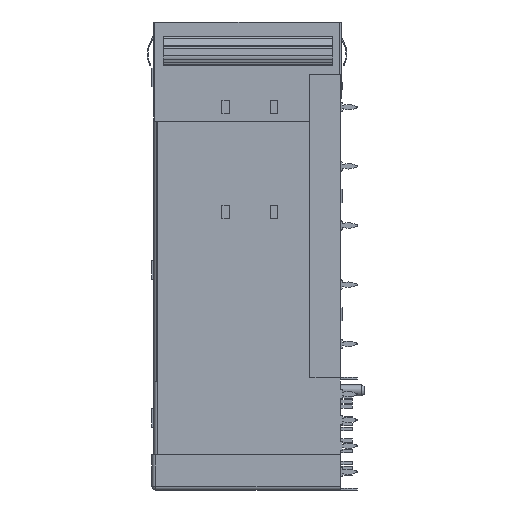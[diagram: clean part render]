
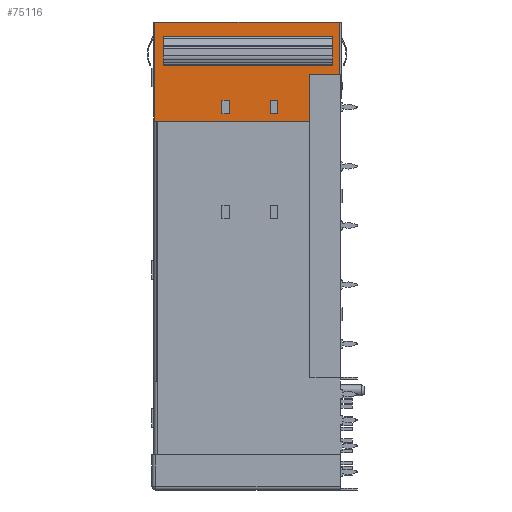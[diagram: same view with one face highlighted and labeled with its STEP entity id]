
A CAD part, left-side view. The second image highlights one B-rep face of the part: STEP entity #75116.
In plain terms, the highlighted planar face has unit normal (-1, 0, 0).
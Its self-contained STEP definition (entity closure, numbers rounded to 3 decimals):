
#1357 = VERTEX_POINT ( 'NONE', #70732 ) ;
#1971 = LINE ( 'NONE', #18788, #60208 ) ;
#2051 = DIRECTION ( 'NONE',  ( 0., 1., 0. ) ) ;
#3683 = FACE_BOUND ( 'NONE', #82720, .T. ) ;
#5963 = FACE_BOUND ( 'NONE', #32019, .T. ) ;
#6067 = LINE ( 'NONE', #29738, #23154 ) ;
#6200 = ORIENTED_EDGE ( 'NONE', *, *, #12895, .T. ) ;
#6686 = CARTESIAN_POINT ( 'NONE',  ( -28.75, 1.05, -1.9 ) ) ;
#7279 = CARTESIAN_POINT ( 'NONE',  ( -28.75, 4.1, -13.4 ) ) ;
#7719 = VECTOR ( 'NONE', #63972, 1000. ) ;
#7734 = ORIENTED_EDGE ( 'NONE', *, *, #25477, .T. ) ;
#8359 = ORIENTED_EDGE ( 'NONE', *, *, #84101, .T. ) ;
#9112 = CARTESIAN_POINT ( 'NONE',  ( -28.75, 0., -10.6 ) ) ;
#9141 = ORIENTED_EDGE ( 'NONE', *, *, #33282, .T. ) ;
#10245 = ORIENTED_EDGE ( 'NONE', *, *, #68516, .F. ) ;
#10424 = ORIENTED_EDGE ( 'NONE', *, *, #18353, .T. ) ;
#11529 = LINE ( 'NONE', #9112, #50312 ) ;
#11690 = ORIENTED_EDGE ( 'NONE', *, *, #83032, .T. ) ;
#12219 = DIRECTION ( 'NONE',  ( 0., -1., 0. ) ) ;
#12895 = EDGE_CURVE ( 'NONE', #67829, #16960, #15973, .T. ) ;
#13012 = ORIENTED_EDGE ( 'NONE', *, *, #55005, .T. ) ;
#13042 = VERTEX_POINT ( 'NONE', #86717 ) ;
#13133 = VECTOR ( 'NONE', #39602, 1000. ) ;
#14053 = ORIENTED_EDGE ( 'NONE', *, *, #28957, .T. ) ;
#15075 = ORIENTED_EDGE ( 'NONE', *, *, #28537, .T. ) ;
#15973 = LINE ( 'NONE', #33768, #35355 ) ;
#16363 = CARTESIAN_POINT ( 'NONE',  ( -28.75, 0.1, -7.1 ) ) ;
#16603 = VERTEX_POINT ( 'NONE', #45126 ) ;
#16960 = VERTEX_POINT ( 'NONE', #94165 ) ;
#18353 = EDGE_CURVE ( 'NONE', #40175, #64159, #11529, .T. ) ;
#18740 = ORIENTED_EDGE ( 'NONE', *, *, #69901, .T. ) ;
#18788 = CARTESIAN_POINT ( 'NONE',  ( -28.75, 25.3, 0. ) ) ;
#21657 = DIRECTION ( 'NONE',  ( 0., 1., 0. ) ) ;
#22184 = VECTOR ( 'NONE', #2051, 1000. ) ;
#22615 = CARTESIAN_POINT ( 'NONE',  ( -28.75, 4.1, 0. ) ) ;
#22871 = EDGE_LOOP ( 'NONE', ( #90883, #15075, #9141, #7734, #6200, #13012 ) ) ;
#22945 = DIRECTION ( 'NONE',  ( 1., 0., 0. ) ) ;
#23056 = FACE_OUTER_BOUND ( 'NONE', #22871, .T. ) ;
#23154 = VECTOR ( 'NONE', #51774, 1000. ) ;
#24330 = DIRECTION ( 'NONE',  ( 0., 0., 1. ) ) ;
#25097 = VERTEX_POINT ( 'NONE', #58107 ) ;
#25477 = EDGE_CURVE ( 'NONE', #16603, #67829, #1971, .T. ) ;
#28537 = EDGE_CURVE ( 'NONE', #13042, #87805, #32282, .T. ) ;
#28957 = EDGE_CURVE ( 'NONE', #72993, #40175, #50408, .T. ) ;
#29738 = CARTESIAN_POINT ( 'NONE',  ( -28.75, 0., -12.4 ) ) ;
#29953 = CARTESIAN_POINT ( 'NONE',  ( -28.75, 0., 0. ) ) ;
#30991 = VECTOR ( 'NONE', #70850, 1000. ) ;
#31025 = AXIS2_PLACEMENT_3D ( 'NONE', #29953, #22945, #52301 ) ;
#31045 = CARTESIAN_POINT ( 'NONE',  ( -28.75, 0., -12.4 ) ) ;
#31317 = CARTESIAN_POINT ( 'NONE',  ( -28.75, 16., 0. ) ) ;
#31397 = LINE ( 'NONE', #46782, #87376 ) ;
#31731 = VECTOR ( 'NONE', #24330, 1000. ) ;
#32019 = EDGE_LOOP ( 'NONE', ( #14053, #10424, #84368, #80553 ) ) ;
#32243 = CARTESIAN_POINT ( 'NONE',  ( -28.75, 15., 0. ) ) ;
#32282 = LINE ( 'NONE', #50441, #88248 ) ;
#32795 = CARTESIAN_POINT ( 'NONE',  ( -28.75, 23.95, -2.181 ) ) ;
#33282 = EDGE_CURVE ( 'NONE', #87805, #16603, #85845, .T. ) ;
#33671 = LINE ( 'NONE', #36644, #70272 ) ;
#33768 = CARTESIAN_POINT ( 'NONE',  ( -28.75, 25.1, 0. ) ) ;
#35084 = VERTEX_POINT ( 'NONE', #93903 ) ;
#35355 = VECTOR ( 'NONE', #41151, 1000. ) ;
#35682 = EDGE_LOOP ( 'NONE', ( #10245, #11690, #83312, #55146 ) ) ;
#36353 = VERTEX_POINT ( 'NONE', #7279 ) ;
#36549 = VECTOR ( 'NONE', #12219, 1000. ) ;
#36644 = CARTESIAN_POINT ( 'NONE',  ( -28.75, 25.2, -13.4 ) ) ;
#37632 = PLANE ( 'NONE',  #31025 ) ;
#38562 = DIRECTION ( 'NONE',  ( 0., 0., -1. ) ) ;
#39602 = DIRECTION ( 'NONE',  ( 0., 0., -1. ) ) ;
#40175 = VERTEX_POINT ( 'NONE', #55228 ) ;
#41151 = DIRECTION ( 'NONE',  ( 0., 0., -1. ) ) ;
#41926 = VERTEX_POINT ( 'NONE', #32795 ) ;
#42486 = FACE_BOUND ( 'NONE', #35682, .T. ) ;
#43992 = CARTESIAN_POINT ( 'NONE',  ( -28.75, 16., -10.6 ) ) ;
#45126 = CARTESIAN_POINT ( 'NONE',  ( -28.75, 0.1, 0. ) ) ;
#46030 = CARTESIAN_POINT ( 'NONE',  ( -28.75, 15., -10.6 ) ) ;
#46782 = CARTESIAN_POINT ( 'NONE',  ( -28.75, 1.05, -2.181 ) ) ;
#47554 = CARTESIAN_POINT ( 'NONE',  ( -28.75, 9.45, -12.4 ) ) ;
#48469 = VERTEX_POINT ( 'NONE', #68681 ) ;
#48744 = LINE ( 'NONE', #22615, #85299 ) ;
#48906 = CARTESIAN_POINT ( 'NONE',  ( -28.75, 1.05, -1.9 ) ) ;
#49729 = VERTEX_POINT ( 'NONE', #48906 ) ;
#50312 = VECTOR ( 'NONE', #60154, 1000. ) ;
#50408 = LINE ( 'NONE', #56150, #30991 ) ;
#50441 = CARTESIAN_POINT ( 'NONE',  ( -28.75, 0., -7.1 ) ) ;
#51774 = DIRECTION ( 'NONE',  ( 0., 1., 0. ) ) ;
#52074 = EDGE_CURVE ( 'NONE', #64159, #1357, #85348, .T. ) ;
#52301 = DIRECTION ( 'NONE',  ( 0., 0., -1. ) ) ;
#52829 = VERTEX_POINT ( 'NONE', #43992 ) ;
#52957 = VECTOR ( 'NONE', #93172, 1000. ) ;
#54178 = DIRECTION ( 'NONE',  ( 0., 1., 0. ) ) ;
#55005 = EDGE_CURVE ( 'NONE', #16960, #36353, #33671, .T. ) ;
#55146 = ORIENTED_EDGE ( 'NONE', *, *, #92354, .F. ) ;
#55228 = CARTESIAN_POINT ( 'NONE',  ( -28.75, 9.45, -10.6 ) ) ;
#55952 = CARTESIAN_POINT ( 'NONE',  ( -28.75, 0., -10.6 ) ) ;
#56004 = LINE ( 'NONE', #55952, #36549 ) ;
#56132 = EDGE_CURVE ( 'NONE', #1357, #72993, #6067, .T. ) ;
#56150 = CARTESIAN_POINT ( 'NONE',  ( -28.75, 9.45, 0. ) ) ;
#56879 = CARTESIAN_POINT ( 'NONE',  ( -28.75, 1.05, -1.9 ) ) ;
#57787 = VECTOR ( 'NONE', #21657, 1000. ) ;
#58107 = CARTESIAN_POINT ( 'NONE',  ( -28.75, 15., -12.4 ) ) ;
#60154 = DIRECTION ( 'NONE',  ( 0., -1., 0. ) ) ;
#60208 = VECTOR ( 'NONE', #84523, 1000. ) ;
#62340 = CARTESIAN_POINT ( 'NONE',  ( -28.75, 0.1, 0. ) ) ;
#62377 = LINE ( 'NONE', #6686, #57787 ) ;
#63335 = LINE ( 'NONE', #31045, #22184 ) ;
#63972 = DIRECTION ( 'NONE',  ( 0., 0., -1. ) ) ;
#64159 = VERTEX_POINT ( 'NONE', #77817 ) ;
#64188 = VECTOR ( 'NONE', #76745, 1000. ) ;
#65400 = VECTOR ( 'NONE', #38562, 1000. ) ;
#66712 = CARTESIAN_POINT ( 'NONE',  ( -28.75, 1.05, -2.181 ) ) ;
#67829 = VERTEX_POINT ( 'NONE', #71602 ) ;
#67967 = ORIENTED_EDGE ( 'NONE', *, *, #94642, .T. ) ;
#68516 = EDGE_CURVE ( 'NONE', #49729, #48469, #62377, .T. ) ;
#68681 = CARTESIAN_POINT ( 'NONE',  ( -28.75, 23.95, -1.9 ) ) ;
#69901 = EDGE_CURVE ( 'NONE', #72681, #25097, #71382, .T. ) ;
#70272 = VECTOR ( 'NONE', #80407, 1000. ) ;
#70732 = CARTESIAN_POINT ( 'NONE',  ( -28.75, 8.45, -12.4 ) ) ;
#70850 = DIRECTION ( 'NONE',  ( 0., 0., 1. ) ) ;
#71382 = LINE ( 'NONE', #32243, #13133 ) ;
#71602 = CARTESIAN_POINT ( 'NONE',  ( -28.75, 25.1, 0. ) ) ;
#72420 = LINE ( 'NONE', #56879, #52957 ) ;
#72681 = VERTEX_POINT ( 'NONE', #46030 ) ;
#72993 = VERTEX_POINT ( 'NONE', #47554 ) ;
#74335 = ORIENTED_EDGE ( 'NONE', *, *, #82721, .T. ) ;
#75109 = VERTEX_POINT ( 'NONE', #66712 ) ;
#75116 = ADVANCED_FACE ( 'NONE', ( #5963, #3683, #42486, #23056 ), #37632, .F. ) ;
#76745 = DIRECTION ( 'NONE',  ( 0., 0., 1. ) ) ;
#77817 = CARTESIAN_POINT ( 'NONE',  ( -28.75, 8.45, -10.6 ) ) ;
#78336 = CARTESIAN_POINT ( 'NONE',  ( -28.75, 8.45, 0. ) ) ;
#80407 = DIRECTION ( 'NONE',  ( 0., -1., 0. ) ) ;
#80553 = ORIENTED_EDGE ( 'NONE', *, *, #56132, .T. ) ;
#81048 = DIRECTION ( 'NONE',  ( 0., 0., 1. ) ) ;
#82181 = EDGE_CURVE ( 'NONE', #75109, #41926, #31397, .T. ) ;
#82720 = EDGE_LOOP ( 'NONE', ( #67967, #8359, #18740, #74335 ) ) ;
#82721 = EDGE_CURVE ( 'NONE', #25097, #35084, #63335, .T. ) ;
#83032 = EDGE_CURVE ( 'NONE', #49729, #75109, #72420, .T. ) ;
#83312 = ORIENTED_EDGE ( 'NONE', *, *, #82181, .T. ) ;
#84101 = EDGE_CURVE ( 'NONE', #52829, #72681, #56004, .T. ) ;
#84368 = ORIENTED_EDGE ( 'NONE', *, *, #52074, .T. ) ;
#84523 = DIRECTION ( 'NONE',  ( 0., 1., 0. ) ) ;
#84794 = LINE ( 'NONE', #89590, #65400 ) ;
#85299 = VECTOR ( 'NONE', #81048, 1000. ) ;
#85348 = LINE ( 'NONE', #78336, #7719 ) ;
#85845 = LINE ( 'NONE', #62340, #64188 ) ;
#86634 = EDGE_CURVE ( 'NONE', #36353, #13042, #48744, .T. ) ;
#86717 = CARTESIAN_POINT ( 'NONE',  ( -28.75, 4.1, -7.1 ) ) ;
#87153 = DIRECTION ( 'NONE',  ( 0., -1., 0. ) ) ;
#87376 = VECTOR ( 'NONE', #54178, 1000. ) ;
#87805 = VERTEX_POINT ( 'NONE', #16363 ) ;
#88248 = VECTOR ( 'NONE', #87153, 1000. ) ;
#89590 = CARTESIAN_POINT ( 'NONE',  ( -28.75, 23.95, -1.9 ) ) ;
#89993 = LINE ( 'NONE', #31317, #31731 ) ;
#90883 = ORIENTED_EDGE ( 'NONE', *, *, #86634, .T. ) ;
#92354 = EDGE_CURVE ( 'NONE', #48469, #41926, #84794, .T. ) ;
#93172 = DIRECTION ( 'NONE',  ( 0., 0., -1. ) ) ;
#93903 = CARTESIAN_POINT ( 'NONE',  ( -28.75, 16., -12.4 ) ) ;
#94165 = CARTESIAN_POINT ( 'NONE',  ( -28.75, 25.1, -13.4 ) ) ;
#94642 = EDGE_CURVE ( 'NONE', #35084, #52829, #89993, .T. ) ;
